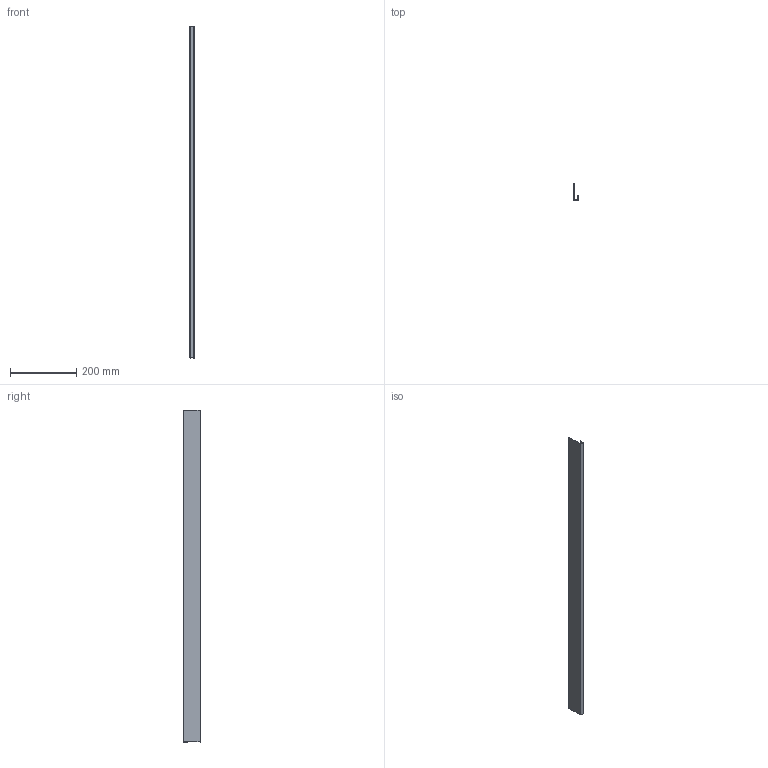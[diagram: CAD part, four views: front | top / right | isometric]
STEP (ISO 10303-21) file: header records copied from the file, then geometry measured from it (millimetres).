
FILE_DESCRIPTION (( 'STEP AP203' ), '1' );
FILE_NAME ('M03D.J3.STEP', '2018-06-19T15:46:20', ( 'Michael Moliner' ), ( '' ), 'SwSTEP 2.0', 'SolidWorks 2018', '' );
FILE_SCHEMA (( 'CONFIG_CONTROL_DESIGN' ));
Length unit declared in the file: inch
Products named in the file (2): M03D.J3
Bounding box: 12.7 x 50.8 x 1000 mm (x, y, z)
Volume: 37828.6 mm3; surface area: 150023.2 mm2
Topology: 1 solids, 1 shells, 14 faces, 36 edges, 24 vertices
Faces by surface type: plane 10, cylinder 4
Entity records: 585 total; most frequent: CARTESIAN_POINT 76, DIRECTION 76, ORIENTED_EDGE 72, EDGE_CURVE 36, LINE 28, VECTOR 28, VERTEX_POINT 24, AXIS2_PLACEMENT_3D 24
